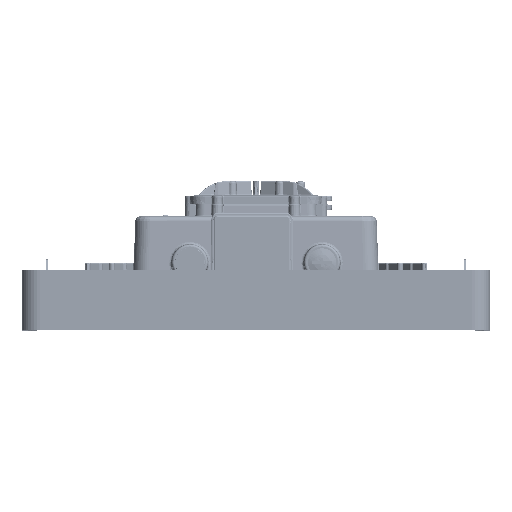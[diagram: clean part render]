
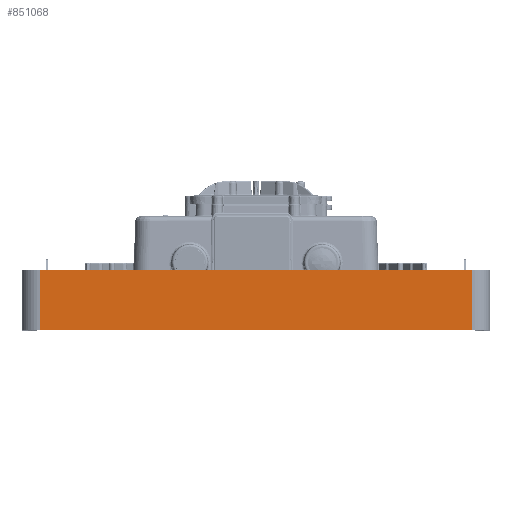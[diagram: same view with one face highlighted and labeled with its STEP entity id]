
A CAD part, top view. The second image highlights one B-rep face of the part: STEP entity #851068.
In plain terms, the highlighted planar face has unit normal (0, 0, 1).
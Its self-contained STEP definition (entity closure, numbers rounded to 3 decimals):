
#850781=DIRECTION('',(0.,1.,0.));
#850782=VECTOR('',#850781,2.5);
#850783=CARTESIAN_POINT('',(9.,-1.955,23.563));
#850784=LINE('',#850783,#850782);
#850785=DIRECTION('',(-1.,0.,0.));
#850786=VECTOR('',#850785,9.);
#850787=CARTESIAN_POINT('',(9.,-1.955,23.563));
#850788=LINE('',#850787,#850786);
#850789=DIRECTION('',(-1.,0.,0.));
#850790=VECTOR('',#850789,9.);
#850791=CARTESIAN_POINT('',(0.,-1.955,23.563));
#850792=LINE('',#850791,#850790);
#850793=DIRECTION('',(0.,1.,0.));
#850794=VECTOR('',#850793,2.5);
#850795=CARTESIAN_POINT('',(-9.,-1.955,23.563));
#850796=LINE('',#850795,#850794);
#850797=DIRECTION('',(1.,0.,0.));
#850798=VECTOR('',#850797,9.);
#850799=CARTESIAN_POINT('',(-9.,0.545,23.563));
#850800=LINE('',#850799,#850798);
#850801=DIRECTION('',(1.,0.,0.));
#850802=VECTOR('',#850801,9.);
#850803=CARTESIAN_POINT('',(0.,0.545,23.563));
#850804=LINE('',#850803,#850802);
#850993=CARTESIAN_POINT('',(0.,-1.955,23.563));
#850995=VERTEX_POINT('',#850993);
#851001=CARTESIAN_POINT('',(0.,0.545,23.563));
#851003=VERTEX_POINT('',#851001);
#851013=CARTESIAN_POINT('',(-9.,-1.955,23.563));
#851014=VERTEX_POINT('',#851013);
#851015=CARTESIAN_POINT('',(-9.,0.545,23.563));
#851016=VERTEX_POINT('',#851015);
#851038=CARTESIAN_POINT('',(9.,-1.955,23.563));
#851040=VERTEX_POINT('',#851038);
#851046=CARTESIAN_POINT('',(9.,0.545,23.563));
#851048=VERTEX_POINT('',#851046);
#851049=CARTESIAN_POINT('',(0.,-0.705,23.563));
#851050=DIRECTION('',(0.,0.,-1.));
#851051=DIRECTION('',(-1.,0.,0.));
#851052=AXIS2_PLACEMENT_3D('',#851049,#851050,#851051);
#851053=PLANE('',#851052);
#851055=ORIENTED_EDGE('',*,*,#851054,.F.);
#851057=ORIENTED_EDGE('',*,*,#851056,.T.);
#851059=ORIENTED_EDGE('',*,*,#851058,.T.);
#851061=ORIENTED_EDGE('',*,*,#851060,.T.);
#851063=ORIENTED_EDGE('',*,*,#851062,.T.);
#851065=ORIENTED_EDGE('',*,*,#851064,.T.);
#851066=EDGE_LOOP('',(#851055,#851057,#851059,#851061,#851063,#851065));
#851067=FACE_OUTER_BOUND('',#851066,.F.);
#851068=ADVANCED_FACE('',(#851067),#851053,.F.);
#851054=EDGE_CURVE('',#851040,#851048,#850784,.T.);
#851056=EDGE_CURVE('',#851040,#850995,#850788,.T.);
#851058=EDGE_CURVE('',#850995,#851014,#850792,.T.);
#851060=EDGE_CURVE('',#851014,#851016,#850796,.T.);
#851062=EDGE_CURVE('',#851016,#851003,#850800,.T.);
#851064=EDGE_CURVE('',#851003,#851048,#850804,.T.);
